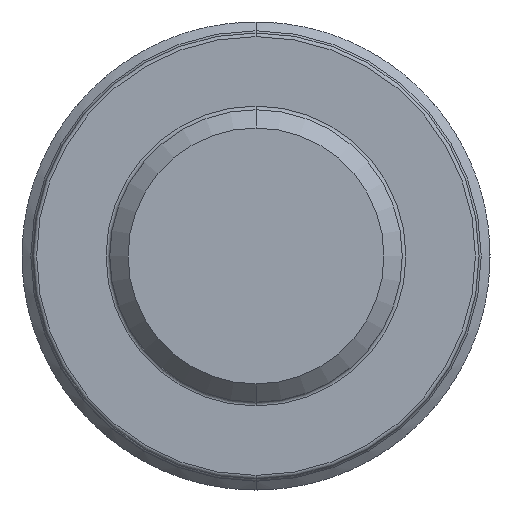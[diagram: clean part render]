
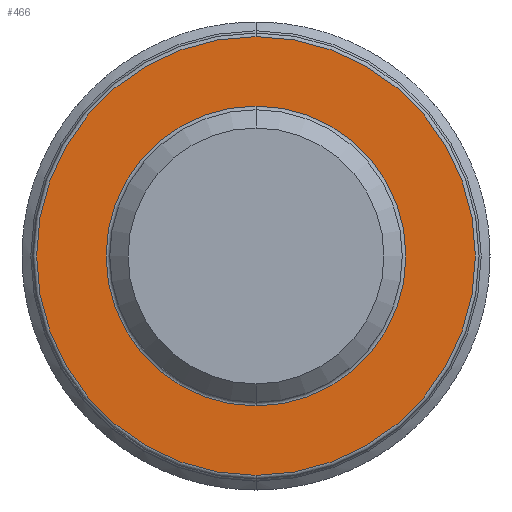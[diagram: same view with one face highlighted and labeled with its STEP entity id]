
A CAD part, front view. The second image highlights one B-rep face of the part: STEP entity #466.
In plain terms, the highlighted planar face has unit normal (0, -1, 0).
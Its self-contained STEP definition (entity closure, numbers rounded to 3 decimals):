
#459 = AXIS2_PLACEMENT_3D ( 'NONE', #3633, #4228, #7717 ) ;
#466 = ADVANCED_FACE ( 'NONE', ( #1146, #3714 ), #6273, .T. ) ;
#703 = DIRECTION ( 'NONE',  ( 0., 0., -1. ) ) ;
#759 = CIRCLE ( 'NONE', #5468, 4.1 ) ;
#767 = EDGE_CURVE ( 'NONE', #3420, #4839, #4659, .T. ) ;
#1058 = CARTESIAN_POINT ( 'NONE',  ( 0., -8., 4.1 ) ) ;
#1076 = EDGE_CURVE ( 'NONE', #2310, #5032, #7888, .T. ) ;
#1146 = FACE_BOUND ( 'NONE', #7608, .T. ) ;
#1763 = ORIENTED_EDGE ( 'NONE', *, *, #1076, .T. ) ;
#1830 = DIRECTION ( 'NONE',  ( 0., 1., 0. ) ) ;
#1977 = CARTESIAN_POINT ( 'NONE',  ( 0., -8., 6. ) ) ;
#2310 = VERTEX_POINT ( 'NONE', #2843 ) ;
#2465 = DIRECTION ( 'NONE',  ( 0., 0., -1. ) ) ;
#2843 = CARTESIAN_POINT ( 'NONE',  ( 0., -8., -4.1 ) ) ;
#3420 = VERTEX_POINT ( 'NONE', #1977 ) ;
#3633 = CARTESIAN_POINT ( 'NONE',  ( 0., -8., 0. ) ) ;
#3714 = FACE_OUTER_BOUND ( 'NONE', #6514, .T. ) ;
#3796 = DIRECTION ( 'NONE',  ( 0., 1., 0. ) ) ;
#3932 = CARTESIAN_POINT ( 'NONE',  ( 0., -8., -6. ) ) ;
#4228 = DIRECTION ( 'NONE',  ( 0., -1., 0. ) ) ;
#4300 = CARTESIAN_POINT ( 'NONE',  ( 0., -8., 0. ) ) ;
#4517 = AXIS2_PLACEMENT_3D ( 'NONE', #5743, #1830, #2465 ) ;
#4623 = ORIENTED_EDGE ( 'NONE', *, *, #6485, .T. ) ;
#4659 = CIRCLE ( 'NONE', #7207, 6. ) ;
#4839 = VERTEX_POINT ( 'NONE', #3932 ) ;
#4867 = DIRECTION ( 'NONE',  ( 0., 0., -1. ) ) ;
#5032 = VERTEX_POINT ( 'NONE', #1058 ) ;
#5053 = AXIS2_PLACEMENT_3D ( 'NONE', #5892, #5847, #703 ) ;
#5468 = AXIS2_PLACEMENT_3D ( 'NONE', #4300, #3796, #6181 ) ;
#5565 = CIRCLE ( 'NONE', #459, 6. ) ;
#5743 = CARTESIAN_POINT ( 'NONE',  ( 0., -8., 0. ) ) ;
#5847 = DIRECTION ( 'NONE',  ( 0., -1., 0. ) ) ;
#5892 = CARTESIAN_POINT ( 'NONE',  ( 4., -8., 0. ) ) ;
#6181 = DIRECTION ( 'NONE',  ( 0., 0., -1. ) ) ;
#6273 = PLANE ( 'NONE',  #5053 ) ;
#6475 = ORIENTED_EDGE ( 'NONE', *, *, #767, .T. ) ;
#6485 = EDGE_CURVE ( 'NONE', #4839, #3420, #5565, .T. ) ;
#6514 = EDGE_LOOP ( 'NONE', ( #4623, #6475 ) ) ;
#7207 = AXIS2_PLACEMENT_3D ( 'NONE', #7440, #7617, #4867 ) ;
#7440 = CARTESIAN_POINT ( 'NONE',  ( 0., -8., 0. ) ) ;
#7608 = EDGE_LOOP ( 'NONE', ( #1763, #7779 ) ) ;
#7617 = DIRECTION ( 'NONE',  ( 0., -1., 0. ) ) ;
#7634 = EDGE_CURVE ( 'NONE', #5032, #2310, #759, .T. ) ;
#7717 = DIRECTION ( 'NONE',  ( 0., 0., -1. ) ) ;
#7779 = ORIENTED_EDGE ( 'NONE', *, *, #7634, .T. ) ;
#7888 = CIRCLE ( 'NONE', #4517, 4.1 ) ;
